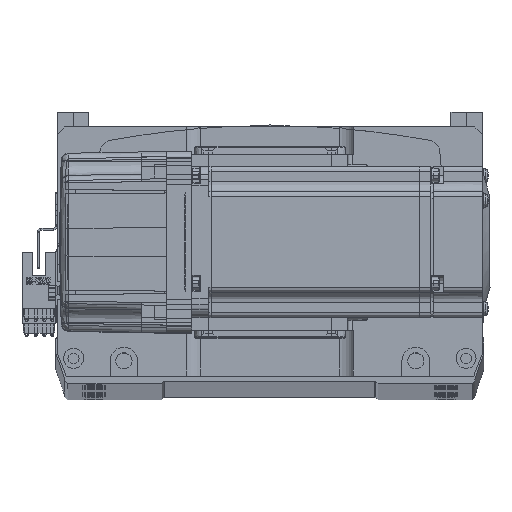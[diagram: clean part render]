
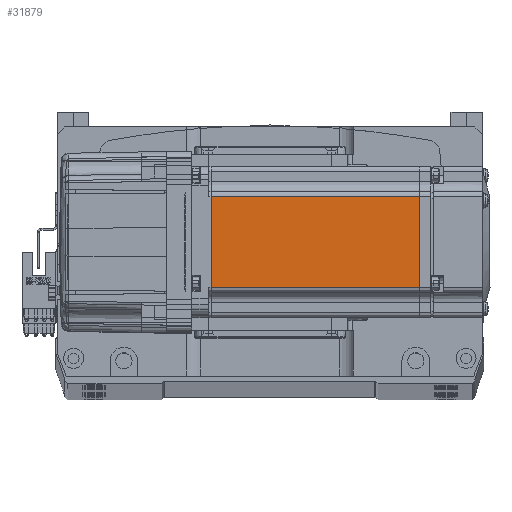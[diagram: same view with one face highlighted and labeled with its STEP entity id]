
A CAD part, top view. The second image highlights one B-rep face of the part: STEP entity #31879.
In plain terms, the highlighted planar face has unit normal (0, 0, 1) as drawn and (0, -1, 0) by its records, which use the part's own axes.
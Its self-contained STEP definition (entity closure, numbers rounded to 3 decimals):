
#1416 = CARTESIAN_POINT ( 'NONE',  ( -6.5, -30., -18. ) ) ;
#5265 = FACE_OUTER_BOUND ( 'NONE', #21564, .T. ) ;
#6610 = EDGE_CURVE ( 'NONE', #40883, #35613, #47588, .T. ) ;
#9024 = VECTOR ( 'NONE', #70795, 1000. ) ;
#10594 = DIRECTION ( 'NONE',  ( 0., -1., 0. ) ) ;
#13189 = LINE ( 'NONE', #1416, #72156 ) ;
#13717 = VERTEX_POINT ( 'NONE', #58786 ) ;
#15534 = CARTESIAN_POINT ( 'NONE',  ( -7.75, -30., -25. ) ) ;
#16331 = PLANE ( 'NONE',  #73662 ) ;
#16631 = DIRECTION ( 'NONE',  ( 0., 0., -1. ) ) ;
#17393 = CARTESIAN_POINT ( 'NONE',  ( -90.45, -30., -25. ) ) ;
#19634 = CARTESIAN_POINT ( 'NONE',  ( -6.5, -30., 18. ) ) ;
#21564 = EDGE_LOOP ( 'NONE', ( #59994, #28951, #69243, #26928 ) ) ;
#22291 = CARTESIAN_POINT ( 'NONE',  ( -6.5, -30., -25. ) ) ;
#25462 = EDGE_CURVE ( 'NONE', #34846, #13717, #37418, .T. ) ;
#26928 = ORIENTED_EDGE ( 'NONE', *, *, #41029, .T. ) ;
#27269 = CARTESIAN_POINT ( 'NONE',  ( -90.45, -30., 18. ) ) ;
#28951 = ORIENTED_EDGE ( 'NONE', *, *, #39385, .T. ) ;
#31879 = ADVANCED_FACE ( 'NONE', ( #5265 ), #16331, .T. ) ;
#33215 = DIRECTION ( 'NONE',  ( 0., 0., 1. ) ) ;
#33273 = VECTOR ( 'NONE', #33215, 1000. ) ;
#34846 = VERTEX_POINT ( 'NONE', #27269 ) ;
#35613 = VERTEX_POINT ( 'NONE', #46302 ) ;
#37418 = LINE ( 'NONE', #17393, #42779 ) ;
#39367 = LINE ( 'NONE', #19634, #9024 ) ;
#39385 = EDGE_CURVE ( 'NONE', #35613, #34846, #39367, .T. ) ;
#40883 = VERTEX_POINT ( 'NONE', #54538 ) ;
#41029 = EDGE_CURVE ( 'NONE', #13717, #40883, #13189, .T. ) ;
#41355 = DIRECTION ( 'NONE',  ( 1., 0., 0. ) ) ;
#42779 = VECTOR ( 'NONE', #16631, 1000. ) ;
#46302 = CARTESIAN_POINT ( 'NONE',  ( -7.75, -30., 18. ) ) ;
#47588 = LINE ( 'NONE', #15534, #33273 ) ;
#54538 = CARTESIAN_POINT ( 'NONE',  ( -7.75, -30., -18. ) ) ;
#58786 = CARTESIAN_POINT ( 'NONE',  ( -90.45, -30., -18. ) ) ;
#59994 = ORIENTED_EDGE ( 'NONE', *, *, #6610, .T. ) ;
#62285 = DIRECTION ( 'NONE',  ( 0., 0., -1. ) ) ;
#69243 = ORIENTED_EDGE ( 'NONE', *, *, #25462, .T. ) ;
#70795 = DIRECTION ( 'NONE',  ( -1., 0., 0. ) ) ;
#72156 = VECTOR ( 'NONE', #41355, 1000. ) ;
#73662 = AXIS2_PLACEMENT_3D ( 'NONE', #22291, #10594, #62285 ) ;
